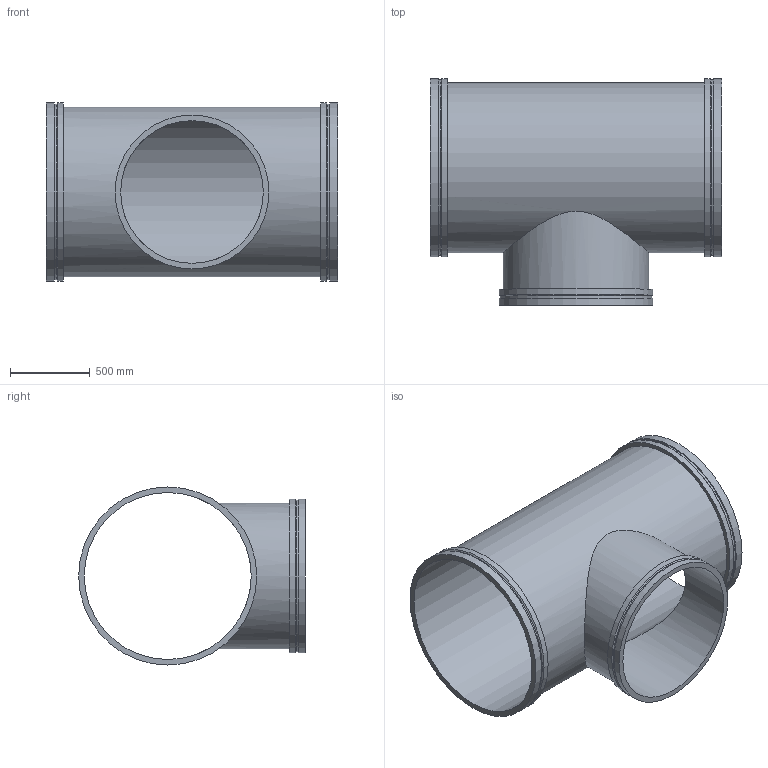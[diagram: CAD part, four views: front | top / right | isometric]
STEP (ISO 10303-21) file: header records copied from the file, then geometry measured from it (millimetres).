
FILE_DESCRIPTION(/* description */ ('VIC REDUCING TEE No W025 VR','CAx-IF Rec.Pracs.---Representation and Presentation of Product Manufacturing Information (PMI)---4.0---2014-10-13'),/* implementation_level */ '2;1');
FILE_NAME(/* name */ 'C:\Users\kkamble\AppData\Roaming\Autodesk\ApplicationPlugins\Back Up\Victaulic_Vic-Ring_Tee Reducing_No W25 VR (AGR)\Victaulic_Vic-Ring_Tee Reducing_No W25 VR (AGR)_42.0x36.0 (1050x900).stp',/* time_stamp */ '2020-09-10T11:56:21+05:00',/* author */ ('mchristi'),/* organization */ ('Victaulic'),/* preprocessor_version */ 'ST-DEVELOPER v17.2',/* originating_system */ 'Autodesk Inventor 2019',/* authorisation */ '');
FILE_SCHEMA (('AP242_MANAGED_MODEL_BASED_3D_ENGINEERING_MIM_LF { 1 0 10303 442 1 1 4 }'));
Length unit declared in the file: inch
Products named in the file (1): W25 VR-42.0x36.0
Bounding box: 1828.8 x 1422.4 x 1117.6 mm (x, y, z)
Volume: 88321421.5 mm3; surface area: 14010699.3 mm2
Topology: 1 solids, 1 shells, 25 faces, 68 edges, 52 vertices
Faces by surface type: cylinder 13, plane 9, cone 3
Full cylindrical faces by diameter (mm): 895.35 x1, 914.4 x1, 950.722 x1, 965.2 x2, 1047.75 x1, 1066.8 x1, 1101.725 x2, 1117.6 x4
Entity records: 1267 total; most frequent: CARTESIAN_POINT 423, DIRECTION 190, ORIENTED_EDGE 136, AXIS2_PLACEMENT_3D 87, EDGE_CURVE 68, VERTEX_POINT 52, CIRCLE 48, EDGE_LOOP 36
